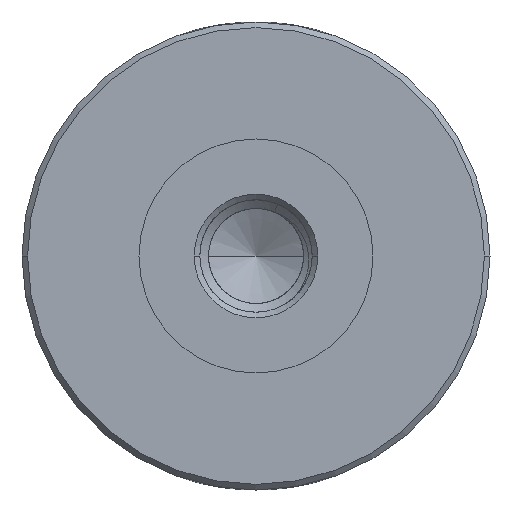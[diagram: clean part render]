
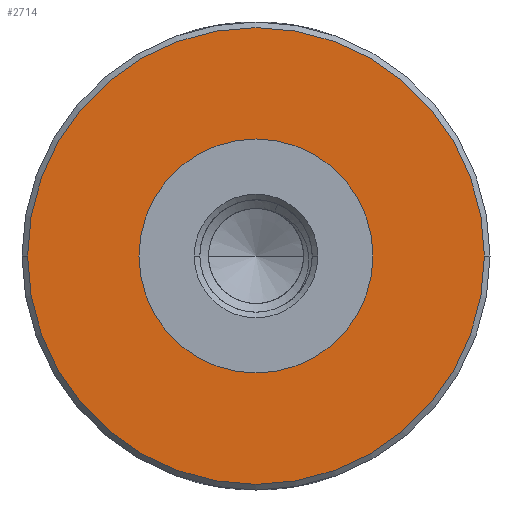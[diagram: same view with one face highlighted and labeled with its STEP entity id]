
A CAD part, front view. The second image highlights one B-rep face of the part: STEP entity #2714.
In plain terms, the highlighted planar face has unit normal (0, -1, 0).
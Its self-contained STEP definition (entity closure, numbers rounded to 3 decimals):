
#1=CARTESIAN_POINT('',(0.,-150.,0.));
#2=DIRECTION('',(0.,1.,0.));
#3=DIRECTION('',(1.,0.,0.));
#4=AXIS2_PLACEMENT_3D('',#1,#2,#3);
#6=CARTESIAN_POINT('',(0.,-150.,0.));
#7=DIRECTION('',(0.,1.,0.));
#8=DIRECTION('',(-1.,0.,0.));
#9=AXIS2_PLACEMENT_3D('',#6,#7,#8);
#11=CARTESIAN_POINT('',(0.,-150.,0.));
#12=DIRECTION('',(0.,-1.,0.));
#13=DIRECTION('',(-1.,0.,0.));
#14=AXIS2_PLACEMENT_3D('',#11,#12,#13);
#16=CARTESIAN_POINT('',(0.,-150.,0.));
#17=DIRECTION('',(0.,-1.,0.));
#18=DIRECTION('',(1.,0.,0.));
#19=AXIS2_PLACEMENT_3D('',#16,#17,#18);
#2587=CARTESIAN_POINT('',(6.25,-150.,0.));
#2588=VERTEX_POINT('',#2587);
#2589=CARTESIAN_POINT('',(-6.25,-150.,0.));
#2590=VERTEX_POINT('',#2589);
#2673=CARTESIAN_POINT('',(-12.2,-150.,0.));
#2674=CARTESIAN_POINT('',(12.2,-150.,0.));
#2675=VERTEX_POINT('',#2673);
#2676=VERTEX_POINT('',#2674);
#2697=CARTESIAN_POINT('',(0.,-150.,0.));
#2698=DIRECTION('',(0.,1.,0.));
#2699=DIRECTION('',(1.,0.,0.));
#2700=AXIS2_PLACEMENT_3D('',#2697,#2698,#2699);
#2701=PLANE('',#2700);
#2703=ORIENTED_EDGE('',*,*,#2702,.F.);
#2705=ORIENTED_EDGE('',*,*,#2704,.F.);
#2706=EDGE_LOOP('',(#2703,#2705));
#2707=FACE_OUTER_BOUND('',#2706,.F.);
#2709=ORIENTED_EDGE('',*,*,#2708,.F.);
#2711=ORIENTED_EDGE('',*,*,#2710,.F.);
#2712=EDGE_LOOP('',(#2709,#2711));
#2713=FACE_BOUND('',#2712,.F.);
#2714=ADVANCED_FACE('',(#2707,#2713),#2701,.F.);
#5=CIRCLE('',#4,6.25);
#10=CIRCLE('',#9,6.25);
#15=CIRCLE('',#14,12.2);
#20=CIRCLE('',#19,12.2);
#2702=EDGE_CURVE('',#2675,#2676,#15,.T.);
#2704=EDGE_CURVE('',#2676,#2675,#20,.T.);
#2708=EDGE_CURVE('',#2588,#2590,#5,.T.);
#2710=EDGE_CURVE('',#2590,#2588,#10,.T.);
